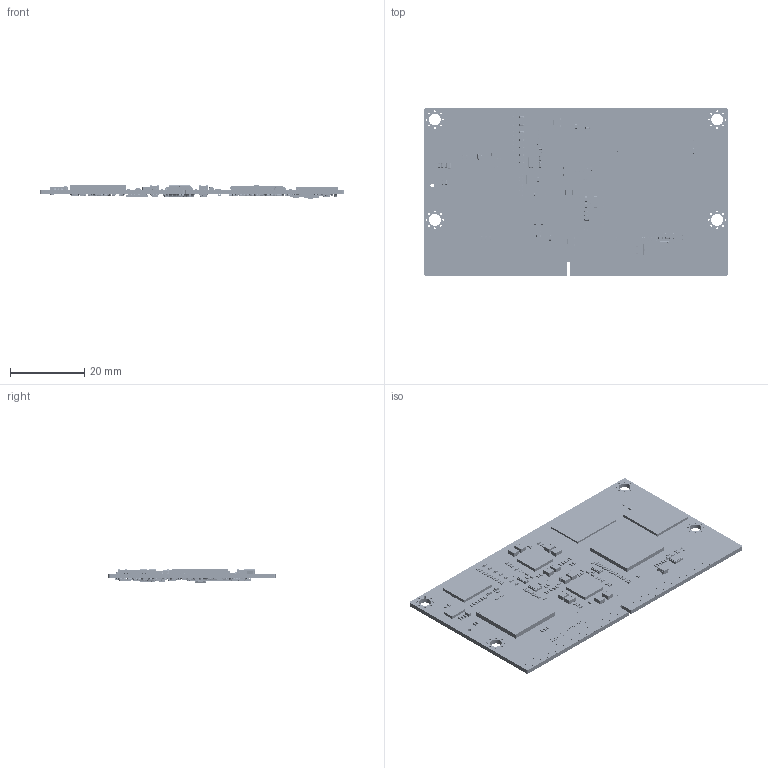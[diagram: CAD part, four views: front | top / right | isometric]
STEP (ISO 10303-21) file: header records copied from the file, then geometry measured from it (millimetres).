
FILE_DESCRIPTION (( 'STEP AP214' ), '1' );
FILE_NAME ('MYC-JX8MMA7-V10-221102-2.STEP', '2022-11-03T02:29:35', ( '' ), ( '' ), 'SwSTEP 2.0', 'SolidWorks 2022', '' );
FILE_SCHEMA (( 'AUTOMOTIVE_DESIGN' ));
Length unit declared in the file: millimetre
Products named in the file (275): Part_147_120.stp.STEP; Board.STEP.stp.STEP; Part_147_52.stp.STEP; Part_147_131.stp.STEP; Part_147_42.stp.STEP; Part_147_108.stp.STEP; Part_147_180.stp.STEP; QFN24.stp.STEP; MYC-JX8MMA7-V10-221102.stp.STEP; Part_147_19.stp.STEP; Part_147_113.stp.STEP; Part_147_158.stp.STEP; Part_147_137.stp.STEP; Part_147_112.stp.STEP; Part_147_186.stp.STEP; Part_147_76.stp.STEP; Part_147_32.stp.STEP; Part_147_135.stp.STEP; Part_147_179.stp.STEP; Part_147_17.stp.STEP; Part_147_162.stp.STEP; Part_147_23.stp.STEP; 858032240.STEP.stp.STEP; Part_147_121.stp.STEP; Part_147.stp.STEP; Part_147_88.stp.STEP; Part_147_57.stp.STEP; Part_147_115.stp.STEP; Part_147_31.stp.STEP; BGA486_0P5_14X14.stp.STEP; BGA153_C010S.stp.STEP; Part_147_72.stp.STEP; Part_147_166.stp.STEP; SOT-23.stp.STEP; WSON8-1_27-W.stp.STEP; C0402.stp.STEP; Part_147_129.stp.STEP; Part_147_45.stp.STEP; Part_147_11.stp.STEP; Part_147_46.stp.STEP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
Assembly tree (766 placements, depth 11):
  MYC-JX8MMA7-V10-221102-2
    MYC-JX8MMA7-V10-221102-1.STEP
      MYC-JX8MMA7-V10-221102.stp.STEP
        COMPONENTS.stp.STEP
          OS5032-6.stp.STEP
            OS5032.stp.STEP
          CONN-JINSHOUZHI281.stp.STEP
            pcb-jx8mma7.stp.STEP
          BGA78.stp.STEP
            BGA78-0.stp.STEP
          TEST1_0-DIP.stp.STEP
            TEST-1_0-DIP.stp.STEP
          TPAD_020.stp.STEP  x5
            TEST0_8smd.stp.STEP
          TPAD_050.stp.STEP  x23
            test-1_27mm.stp.STEP
          3215.stp.STEP
            Solid.stp.STEP
          OS3215.stp.STEP
            Solid.stp.STEP
          R0402.stp.STEP  x180
            R0402-1.stp.STEP
          L2X2_5.stp.STEP  x12
            L2520.stp.STEP
          FB0603.stp.STEP  x3
            FB0603-2.stp.STEP
          LED0603.stp.STEP  x2
            LED0603-3.stp.STEP
          C0402.stp.STEP  x100
            C0402-1.stp.STEP
          C0603.stp.STEP  x39
            C0603-1.stp.STEP
          C0201.stp.STEP  x109
            C0201-1.stp.STEP
          SOT-23.stp.STEP  x2
            SOT-23-3.stp.STEP
          3225.stp.STEP  x3
            OSCCC320X250X80L90X100.stp.STEP
          HOLE3_2P-8.stp.STEP  x4
            hole3_2p_8-1.2mm.stp.STEP
          WSON8-1_27-W.stp.STEP  x2
            WSON-8_6x8mm-1.stp.STEP
              WSON-8_6x8mm.STEP.stp.STEP
                Designator14.STEP.stp.STEP
                  858032368.STEP.stp.STEP
                  858032240.STEP.stp.STEP  x8
                  858031856.STEP.stp.STEP  x8
                  857275360.STEP.stp.STEP
                  894460672.STEP.stp.STEP
                Board.STEP.stp.STEP
          QFN24.stp.STEP
            QFN24 4x4.stp.STEP
          UQFN56_0P4_7X7_EP_S185.stp.STEP  x2
            UQFN56.stp.STEP
              UQFN56.STEP.stp.STEP
                UQFN56.STEP.STEP.stp.STEP
                  UQFN56.STEP.STEP.STEP.stp.STEP
          BGA153_C010S.stp.STEP
            BGA153-1.stp.STEP
          FBGA200-DS.stp.STEP
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Bounding box: 82 x 45 x 3.74 mm (x, y, z)
Volume: 5628.3 mm3; surface area: 12897 mm2
Topology: 1408 solids, 1588 shells, 43166 faces, 120142 edges, 81084 vertices
Faces by surface type: plane 20371, cylinder 14420, bspline 6917, torus 1026, sphere 432
Entity records: 201203 total; most frequent: CARTESIAN_POINT 51144, DIRECTION 26381, ORIENTED_EDGE 26190, EDGE_CURVE 13107, VECTOR 8799, LINE 8799, AXIS2_PLACEMENT_3D 8791, VERTEX_POINT 8675
